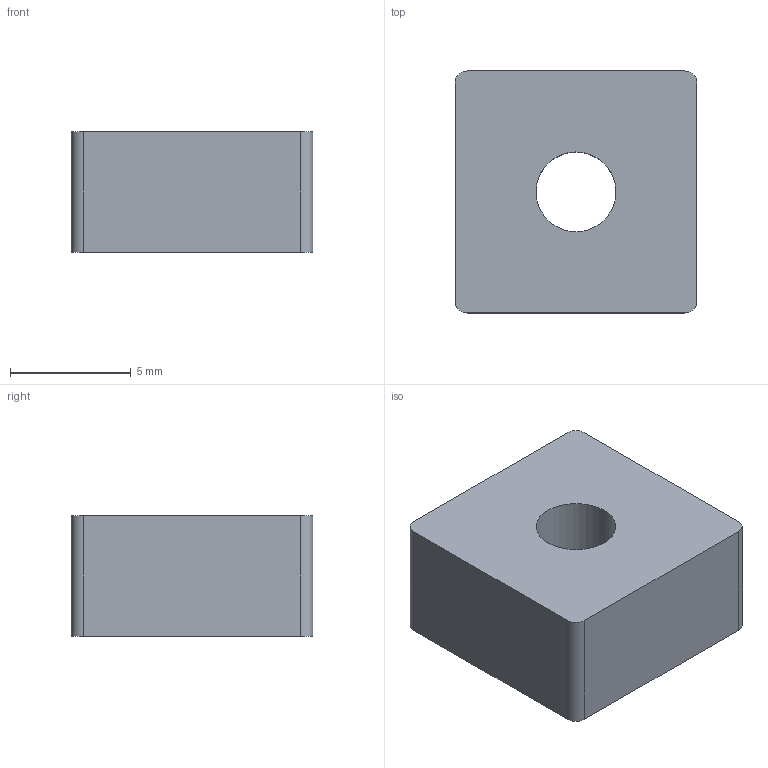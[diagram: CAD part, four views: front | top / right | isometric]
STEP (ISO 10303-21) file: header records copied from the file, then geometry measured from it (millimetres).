
FILE_DESCRIPTION (( 'STEP AP214' ), '1' );
FILE_NAME ('J3N4.step', '2017-05-24T07:39:49', ( 'admin' ), ( '' ), 'SwSTEP 2.0', 'SolidWorks 2014', '' );
FILE_SCHEMA (( 'AUTOMOTIVE_DESIGN' ));
Length unit declared in the file: millimetre
Products named in the file (1): J3N4
Bounding box: 10 x 10 x 5 mm (x, y, z)
Volume: 456.2 mm3; surface area: 430 mm2
Topology: 1 solids, 1 shells, 12 faces, 30 edges, 20 vertices
Faces by surface type: cylinder 6, plane 6
Entity records: 426 total; most frequent: DIRECTION 68, CARTESIAN_POINT 63, ORIENTED_EDGE 60, EDGE_CURVE 30, AXIS2_PLACEMENT_3D 25, VERTEX_POINT 20, LINE 18, VECTOR 18
